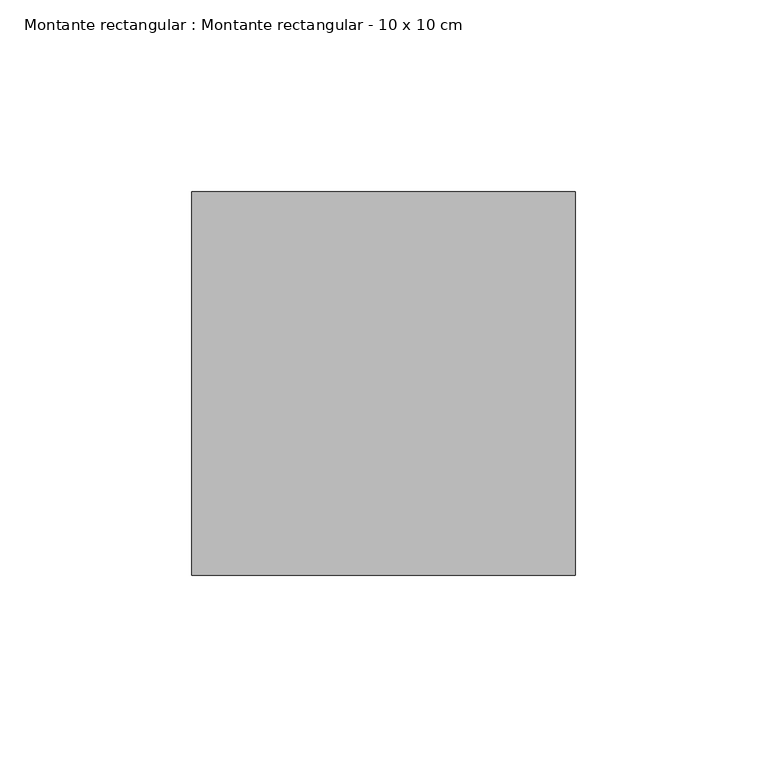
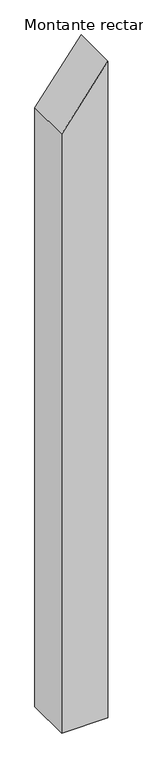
"""IFC4 building model written with IfcOpenShell, lengths in millimetres: member geometry, Montante rectangular : Montante rectangular - 10 x 10 cm."""

from ifc_helpers import new_model, si_unit, frame, origin, place, context, project, spatial, polyline, outline, extrude, source, transform, mapped, element, save


def montante_rectangular_montante_rectangular_10_x_10_cm_4f0e651d(model_context):
    return source(origin(), model_context, "Body", "SweptSolid", [
        extrude(outline(polyline([(0.0, 0.0), (-131.5706462, -100.0), (-1504.9219491, -100.0), (-1504.9219491, 0.0), (0.0, 0.0)])), frame((0.0, -50.0, 0.0), z_axis=(0.0, 1.0, 0.0), x_axis=(0.0, 0.0, 1.0)), (0.0, 0.0, 1.0), 100.0),
    ])


if __name__ == "__main__":
    model = new_model("IFC4")
    model_context = context("Model", 3, world=origin())
    ifc_project = project(units=[si_unit("LENGTHUNIT", "METRE", prefix="MILLI")], contexts=[model_context])
    site = spatial("IfcSite", under=ifc_project)
    building = spatial("IfcBuilding", under=site)
    placement = place(None, origin())
    montante_rectangular_montante_rectangular_10_x_10_cm_shape = montante_rectangular_montante_rectangular_10_x_10_cm_4f0e651d(model_context)
    element("IfcMember", 1, ObjectType="Montante rectangular : Montante rectangular - 10 x 10 cm", at=placement, inside=building, context=model_context, shape_type="MappedRepresentation", body=[
        mapped(montante_rectangular_montante_rectangular_10_x_10_cm_shape, transform((0.0, 0.0, 0.0), x_axis=(1.0, 0.0, 0.0), y_axis=(0.0, 1.0, 0.0), z_axis=(0.0, 0.0, 1.0))),
    ])
    save(model, "model.ifc")
